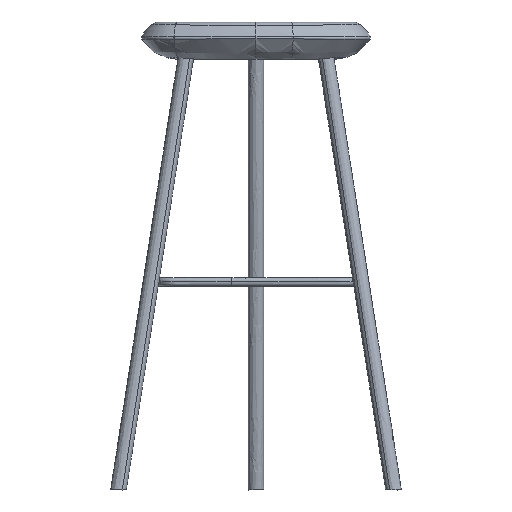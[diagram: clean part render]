
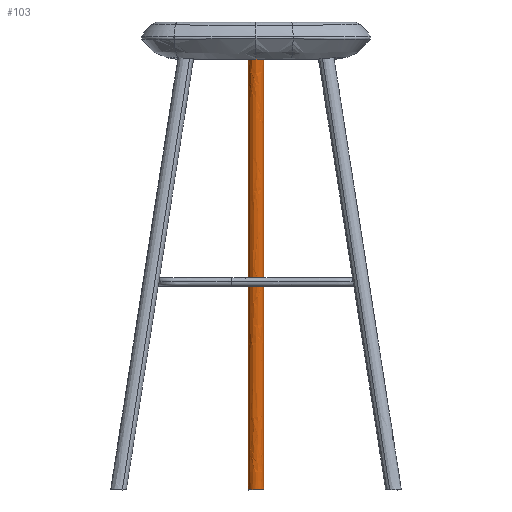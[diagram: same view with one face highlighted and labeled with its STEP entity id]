
A CAD part, front view. The second image highlights one B-rep face of the part: STEP entity #103.
In plain terms, the highlighted free-form (B-spline) face has degree [3, 2] with [4, 5] control points.
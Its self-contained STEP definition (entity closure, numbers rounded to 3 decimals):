
#32=B_SPLINE_CURVE_WITH_KNOTS($,3,(#2730,#2731,#2732,#2733,#2734,#2735,#2736,
#2737,#2738,#2739,#2740,#2741,#2742,#2743,#2744,#2745,#2746,#2747,#2748,
#2749,#2750,#2751,#2752,#2753,#2754,#2755,#2756,#2757,#2758,#2759,#2760,
#2761,#2762,#2763,#2764,#2765,#2766,#2767),.UNSPECIFIED.,.F.,.F.,(4,2,2,
2,2,2,2,2,2,2,2,2,2,2,2,2,2,2,4),(-79.169,-76.701,-74.23,
-71.757,-69.281,-66.808,-64.334,
-61.855,-60.614,-59.373,-56.903,
-54.432,-51.957,-49.48,-47.012,
-44.541,-42.068,-39.592,-39.589),
.UNSPECIFIED.);
#33=B_SPLINE_CURVE_WITH_KNOTS($,3,(#2772,#2773,#2774,#2775,#2776,#2777,#2778,
#2779,#2780,#2781,#2782,#2783,#2784,#2785,#2786,#2787,#2788,#2789,#2790,
#2791,#2792,#2793,#2794,#2795,#2796,#2797,#2798,#2799,#2800,#2801,#2802,
#2803,#2804,#2805,#2806,#2807,#2808,#2809),.UNSPECIFIED.,.F.,.F.,(4,2,2,
2,2,2,2,2,2,2,2,2,2,2,2,2,2,2,4),(39.589,39.592,42.069,
44.541,47.012,49.48,51.957,54.431,
56.902,59.37,60.611,61.851,64.328,
66.8,69.27,71.749,74.225,76.699,
79.169),.UNSPECIFIED.);
#103=ADVANCED_FACE($,(#178),#879,.T.);
#178=FACE_OUTER_BOUND($,#253,.T.);
#253=EDGE_LOOP($,(#353,#354,#355,#356));
#353=ORIENTED_EDGE($,*,*,#645,.T.);
#354=ORIENTED_EDGE($,*,*,#642,.T.);
#355=ORIENTED_EDGE($,*,*,#643,.T.);
#356=ORIENTED_EDGE($,*,*,#644,.F.);
#642=EDGE_CURVE($,#790,#791,#941,.T.);
#643=EDGE_CURVE($,#791,#793,#32,.T.);
#644=EDGE_CURVE($,#792,#793,#942,.T.);
#645=EDGE_CURVE($,#792,#790,#33,.T.);
#790=VERTEX_POINT($,#2907);
#791=VERTEX_POINT($,#2908);
#792=VERTEX_POINT($,#2909);
#793=VERTEX_POINT($,#2910);
#879=(
BOUNDED_SURFACE()
B_SPLINE_SURFACE(3,2,((#2887,#2888,#2889,#2890,#2891),(#2892,#2893,#2894,
#2895,#2896),(#2897,#2898,#2899,#2900,#2901),(#2902,#2903,#2904,#2905,#2906)),
.UNSPECIFIED.,.F.,.F.,.F.)
B_SPLINE_SURFACE_WITH_KNOTS((4,4),(3,2,3),(42.675,772.553),
(-78.54,-58.905,-39.27),.UNSPECIFIED.)
GEOMETRIC_REPRESENTATION_ITEM()
RATIONAL_B_SPLINE_SURFACE(((1.,0.707,1.,0.707,1.),
(1.,0.707,1.,0.707,1.),(1.,0.707,1.,
0.707,1.),(1.,0.707,1.,0.707,1.)))
REPRESENTATION_ITEM($)
SURFACE()
);
#941=(
BOUNDED_CURVE()
B_SPLINE_CURVE(3,(#2726,#2727,#2728,#2729),.UNSPECIFIED.,.F.,.F.)
B_SPLINE_CURVE_WITH_KNOTS((4,4),(42.675,763.076),.UNSPECIFIED.)
CURVE()
GEOMETRIC_REPRESENTATION_ITEM()
RATIONAL_B_SPLINE_CURVE((1.,1.,1.,1.))
REPRESENTATION_ITEM($)
);
#942=(
BOUNDED_CURVE()
B_SPLINE_CURVE(3,(#2768,#2769,#2770,#2771),.UNSPECIFIED.,.F.,.F.)
B_SPLINE_CURVE_WITH_KNOTS((4,4),(42.675,763.076),.UNSPECIFIED.)
CURVE()
GEOMETRIC_REPRESENTATION_ITEM()
RATIONAL_B_SPLINE_CURVE((1.,1.,1.,1.))
REPRESENTATION_ITEM($)
);
#2726=CARTESIAN_POINT($,(121439.046,11151.259,-314.));
#2727=CARTESIAN_POINT($,(121439.046,11108.707,-77.667));
#2728=CARTESIAN_POINT($,(121439.046,11066.155,158.667));
#2729=CARTESIAN_POINT($,(121439.046,11023.604,395.));
#2730=CARTESIAN_POINT($,(121439.046,11023.604,395.));
#2731=CARTESIAN_POINT($,(121439.046,11022.781,395.));
#2732=CARTESIAN_POINT($,(121438.967,11021.959,395.));
#2733=CARTESIAN_POINT($,(121438.653,11020.341,395.));
#2734=CARTESIAN_POINT($,(121438.419,11019.549,395.));
#2735=CARTESIAN_POINT($,(121437.802,11018.019,395.));
#2736=CARTESIAN_POINT($,(121437.42,11017.285,395.));
#2737=CARTESIAN_POINT($,(121436.518,11015.901,395.));
#2738=CARTESIAN_POINT($,(121436.001,11015.255,395.));
#2739=CARTESIAN_POINT($,(121434.848,11014.073,395.));
#2740=CARTESIAN_POINT($,(121434.216,11013.54,395.));
#2741=CARTESIAN_POINT($,(121432.854,11012.607,395.));
#2742=CARTESIAN_POINT($,(121432.128,11012.209,395.));
#2743=CARTESIAN_POINT($,(121430.607,11011.563,395.));
#2744=CARTESIAN_POINT($,(121429.816,11011.316,395.));
#2745=CARTESIAN_POINT($,(121428.599,11011.068,395.));
#2746=CARTESIAN_POINT($,(121428.192,11011.006,395.));
#2747=CARTESIAN_POINT($,(121427.367,11010.923,395.));
#2748=CARTESIAN_POINT($,(121426.956,11010.903,395.));
#2749=CARTESIAN_POINT($,(121425.717,11010.903,395.));
#2750=CARTESIAN_POINT($,(121424.896,11010.986,395.));
#2751=CARTESIAN_POINT($,(121423.28,11011.315,395.));
#2752=CARTESIAN_POINT($,(121422.49,11011.561,395.));
#2753=CARTESIAN_POINT($,(121420.971,11012.205,395.));
#2754=CARTESIAN_POINT($,(121420.245,11012.603,395.));
#2755=CARTESIAN_POINT($,(121418.881,11013.536,395.));
#2756=CARTESIAN_POINT($,(121418.247,11014.069,395.));
#2757=CARTESIAN_POINT($,(121417.094,11015.25,395.));
#2758=CARTESIAN_POINT($,(121416.578,11015.895,395.));
#2759=CARTESIAN_POINT($,(121415.678,11017.275,395.));
#2760=CARTESIAN_POINT($,(121415.295,11018.007,395.));
#2761=CARTESIAN_POINT($,(121414.676,11019.536,395.));
#2762=CARTESIAN_POINT($,(121414.441,11020.329,395.));
#2763=CARTESIAN_POINT($,(121414.126,11021.95,395.));
#2764=CARTESIAN_POINT($,(121414.046,11022.774,395.));
#2765=CARTESIAN_POINT($,(121414.046,11023.602,395.));
#2766=CARTESIAN_POINT($,(121414.046,11023.603,395.));
#2767=CARTESIAN_POINT($,(121414.046,11023.604,395.));
#2768=CARTESIAN_POINT($,(121414.046,11151.259,-314.));
#2769=CARTESIAN_POINT($,(121414.046,11108.707,-77.667));
#2770=CARTESIAN_POINT($,(121414.046,11066.155,158.667));
#2771=CARTESIAN_POINT($,(121414.046,11023.604,395.));
#2772=CARTESIAN_POINT($,(121414.046,11151.259,-314.));
#2773=CARTESIAN_POINT($,(121414.046,11151.257,-314.));
#2774=CARTESIAN_POINT($,(121414.046,11151.256,-314.));
#2775=CARTESIAN_POINT($,(121414.046,11150.429,-314.));
#2776=CARTESIAN_POINT($,(121414.126,11149.605,-314.));
#2777=CARTESIAN_POINT($,(121414.441,11147.984,-314.));
#2778=CARTESIAN_POINT($,(121414.676,11147.19,-314.));
#2779=CARTESIAN_POINT($,(121415.295,11145.662,-314.));
#2780=CARTESIAN_POINT($,(121415.678,11144.929,-314.));
#2781=CARTESIAN_POINT($,(121416.579,11143.549,-314.));
#2782=CARTESIAN_POINT($,(121417.095,11142.905,-314.));
#2783=CARTESIAN_POINT($,(121418.247,11141.724,-314.));
#2784=CARTESIAN_POINT($,(121418.881,11141.191,-314.));
#2785=CARTESIAN_POINT($,(121420.244,11140.258,-314.));
#2786=CARTESIAN_POINT($,(121420.97,11139.86,-314.));
#2787=CARTESIAN_POINT($,(121422.489,11139.216,-314.));
#2788=CARTESIAN_POINT($,(121423.279,11138.97,-314.));
#2789=CARTESIAN_POINT($,(121424.894,11138.641,-314.));
#2790=CARTESIAN_POINT($,(121425.715,11138.558,-314.));
#2791=CARTESIAN_POINT($,(121426.953,11138.557,-314.));
#2792=CARTESIAN_POINT($,(121427.364,11138.578,-314.));
#2793=CARTESIAN_POINT($,(121428.188,11138.661,-314.));
#2794=CARTESIAN_POINT($,(121428.595,11138.722,-314.));
#2795=CARTESIAN_POINT($,(121429.811,11138.97,-314.));
#2796=CARTESIAN_POINT($,(121430.601,11139.215,-314.));
#2797=CARTESIAN_POINT($,(121432.122,11139.86,-314.));
#2798=CARTESIAN_POINT($,(121432.847,11140.258,-314.));
#2799=CARTESIAN_POINT($,(121434.208,11141.189,-314.));
#2800=CARTESIAN_POINT($,(121434.841,11141.721,-314.));
#2801=CARTESIAN_POINT($,(121435.995,11142.902,-314.));
#2802=CARTESIAN_POINT($,(121436.513,11143.549,-314.));
#2803=CARTESIAN_POINT($,(121437.416,11144.934,-314.));
#2804=CARTESIAN_POINT($,(121437.799,11145.668,-314.));
#2805=CARTESIAN_POINT($,(121438.418,11147.199,-314.));
#2806=CARTESIAN_POINT($,(121438.653,11147.992,-314.));
#2807=CARTESIAN_POINT($,(121438.967,11149.612,-314.));
#2808=CARTESIAN_POINT($,(121439.046,11150.434,-314.));
#2809=CARTESIAN_POINT($,(121439.046,11151.259,-314.));
#2887=CARTESIAN_POINT($,(121439.046,11151.259,-314.));
#2888=CARTESIAN_POINT($,(121439.046,11138.956,-316.215));
#2889=CARTESIAN_POINT($,(121426.546,11138.956,-316.215));
#2890=CARTESIAN_POINT($,(121414.046,11138.956,-316.215));
#2891=CARTESIAN_POINT($,(121414.046,11151.259,-314.));
#2892=CARTESIAN_POINT($,(121439.046,11108.147,-74.558));
#2893=CARTESIAN_POINT($,(121439.046,11095.845,-76.773));
#2894=CARTESIAN_POINT($,(121426.546,11095.845,-76.773));
#2895=CARTESIAN_POINT($,(121414.046,11095.845,-76.773));
#2896=CARTESIAN_POINT($,(121414.046,11108.147,-74.558));
#2897=CARTESIAN_POINT($,(121439.046,11065.036,164.885));
#2898=CARTESIAN_POINT($,(121439.046,11052.734,162.67));
#2899=CARTESIAN_POINT($,(121426.546,11052.734,162.67));
#2900=CARTESIAN_POINT($,(121414.046,11052.734,162.67));
#2901=CARTESIAN_POINT($,(121414.046,11065.036,164.885));
#2902=CARTESIAN_POINT($,(121439.046,11021.925,404.327));
#2903=CARTESIAN_POINT($,(121439.046,11009.622,402.112));
#2904=CARTESIAN_POINT($,(121426.546,11009.622,402.112));
#2905=CARTESIAN_POINT($,(121414.046,11009.622,402.112));
#2906=CARTESIAN_POINT($,(121414.046,11021.925,404.327));
#2907=CARTESIAN_POINT($,(121439.046,11151.259,-314.));
#2908=CARTESIAN_POINT($,(121439.046,11023.604,395.));
#2909=CARTESIAN_POINT($,(121414.046,11151.259,-314.));
#2910=CARTESIAN_POINT($,(121414.046,11023.604,395.));
